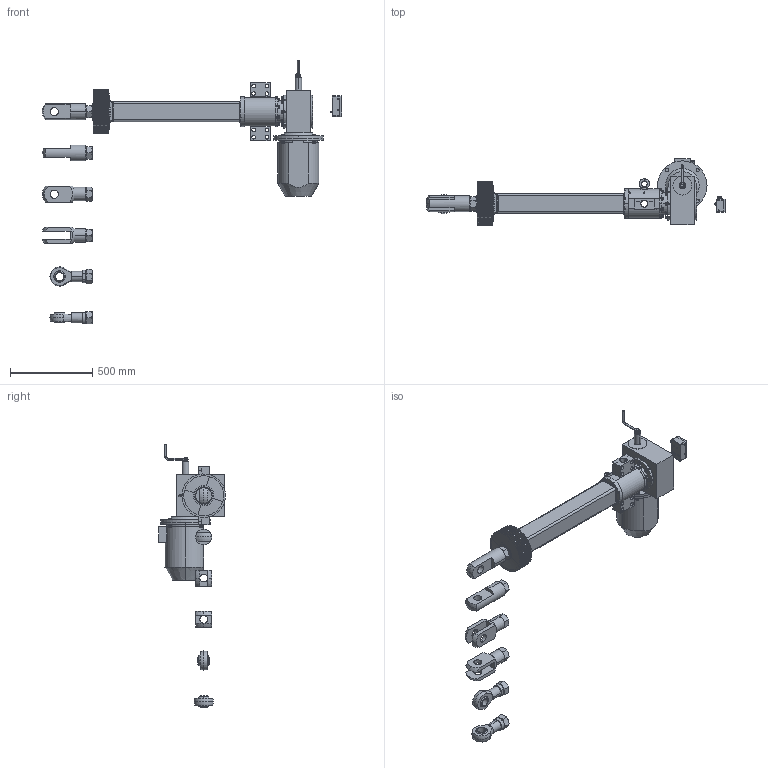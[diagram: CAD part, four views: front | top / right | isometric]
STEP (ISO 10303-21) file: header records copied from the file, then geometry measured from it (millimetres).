
FILE_DESCRIPTION (( 'STEP AP203' ), '1' );
FILE_NAME ('Ì4 10 600.STEP', '2016-12-21T09:05:27', ( '' ), ( '' ), 'SwSTEP 2.0', 'SolidWorks 2012', '' );
FILE_SCHEMA (( 'CONFIG_CONTROL_DESIGN' ));
Length unit declared in the file: millimetre
Products named in the file (9): ﾌ4 10 600; 迕10; 苂10; 迍 10; ﾁﾑﾏ; Ãîôð Ñ4_•®¤600; ﾒ矜 10_憤､ 600; ﾑ4 10 1; ﾌ4 10 矜鈞
Assembly tree (10 placements, depth 2):
  ﾌ4 10 600
    ﾌ4 10 矜鈞
    ﾑ4 10 1
    ﾒ矜 10_憤､ 600
    Ãîôð Ñ4_•®¤600
    ﾁﾑﾏ
    迍 10
    苂10  x2
    迕10  x2
Bounding box: 1816 x 405.76 x 1601 mm (x, y, z)
Volume: 2060857.3 mm3; surface area: 6342164.1 mm2
Topology: 1 solids, 211 shells, 1906 faces, 5216 edges, 3541 vertices
Faces by surface type: plane 759, cylinder 599, cone 414, torus 62, sphere 60, bspline 12
Entity records: 62601 total; most frequent: CARTESIAN_POINT 15144, DIRECTION 10383, ORIENTED_EDGE 8387, EDGE_CURVE 4956, AXIS2_PLACEMENT_3D 4163, VERTEX_POINT 3384, CIRCLE 2328, EDGE_LOOP 2180
